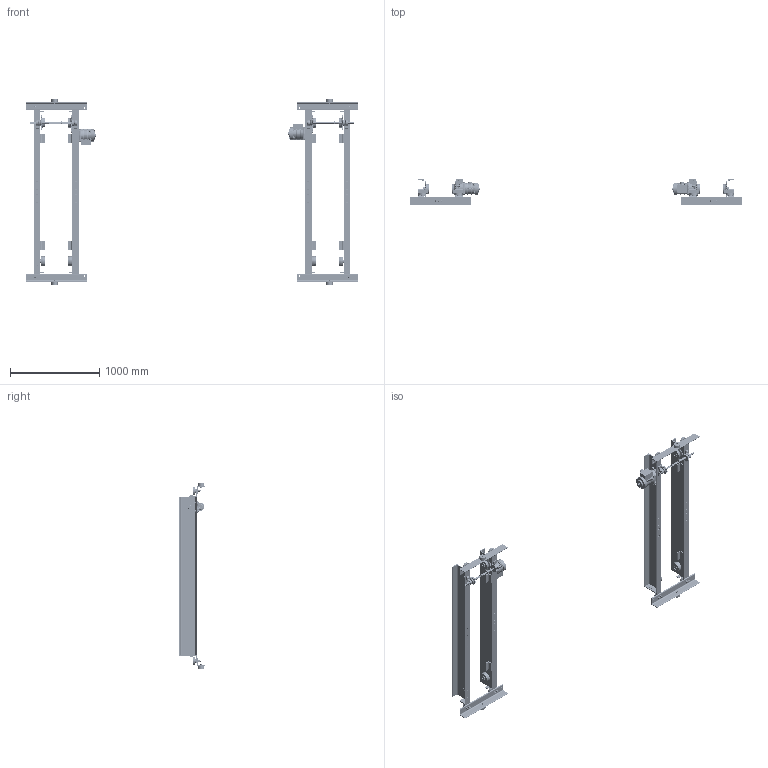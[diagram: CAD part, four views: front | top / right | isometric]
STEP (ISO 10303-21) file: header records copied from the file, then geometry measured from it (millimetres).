
FILE_DESCRIPTION (( 'STEP AP214' ), '1' );
FILE_NAME ('UMS-3-0250.STEP', '2026-08-11T15:42:45', ( '' ), ( '' ), 'SwSTEP 2.0', 'SolidWorks 2026', '' );
FILE_SCHEMA (( 'AUTOMOTIVE_DESIGN' ));
Length unit declared in the file: inch
Products named in the file (81): 9012514_9012514; 9093427_9093427; G1JE025S9310; 9798526_9798526; 9012515_9012515; G1CM025S_NORMAL; 6232601_6232601; N6QL210116; 62370_6237014U; MS555010_MS555010; 62607XX_6260705; 6232803_6232803; G1JE025S9303; 9093424_9093424; N6QL210115; UMS-3-0250; 62608_12" FLANGE B; G1JE025S9604; 9043411; 6232301; G1JE025S9301; 62371_6237114U; MC08-018.7_70; 9093433_9093433; G1JE025S9609; 9000605; 62587; N6QL5101101; 62681XX_6268105; 9012712_9012712; 62367_6236714U; N6QL510E9101_Domestic; N6QL210209; N6QO310E9108_N6QO3101108 DOMESTIC; 9047120_9047120; 6232304; G1JE025S9707; 9000606; 6257004; 9091250_9091250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
Assembly tree (366 placements, depth 4):
  UMS-3-0250
    62370_6237014U  x2
      62367_6236714U
        MC08-018.7_70
        6232803_6232803
        6232803_6232803
      6232301
      6232304
      5204405_5204405
      6233203
    62369_6236914U
      62366_6236614U
        MC08-018.7_70
        6232803_6232803
        6232803_6232803
      6232301  x2
      6232304  x2
      5204405_5204405  x2
      6233203  x2
      6257004
    62371_6237114U
      62368_6236814U
        MC08-018.7_70
        6232803_6232803
        6232803_6232803
      6232301  x2
      6232304  x2
      5204405_5204405  x2
      6233203  x2
      6257004
    N6QL210207  x4
    9012514_9012514  x12
    9093101_9093101  x4
    9093424_9093424  x8
    N6QO3101108_N6QO3101108  x8
      N6QO310E9108_N6QO3101108 DOMESTIC
      9047252_9047252
      9000605
    6232404  x8
    9047125_B27.7M - 3AM1-23  x8
    9012515_9012515  x16
    9093433_9093433  x32
    9093146_9093146  x8
    6234501  x4
      6232601_6232601
      9000606
      9047262_B27.7M - 3BM1-62
    6232401  x8
    9047130_9047130  x8
    62608_12" FLANGE B  x2
      62607XX_6260705
    62608_12" FLANGE A  x2
      62607XX_6260706
    N6QL5101101  x4
      N6QL510E9101_Domestic
      9000606
      9047262_B27.7M - 3BM1-62
    N6QL210116  x4
    9012712_9012712  x8
    9043411  x8
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Bounding box: 3716.83 x 292.1 x 2084.61 mm (x, y, z)
Volume: 43327467.3 mm3; surface area: 9055230.9 mm2
Topology: 383 solids, 479 shells, 25454 faces, 65698 edges, 42258 vertices
Faces by surface type: plane 12410, cylinder 5602, bspline 3746, cone 2606, torus 904, sphere 186
Entity records: 212892 total; most frequent: CARTESIAN_POINT 90466, ORIENTED_EDGE 25326, DIRECTION 22863, EDGE_CURVE 12667, AXIS2_PLACEMENT_3D 8804, VERTEX_POINT 8059, EDGE_LOOP 5440, LINE 5255
